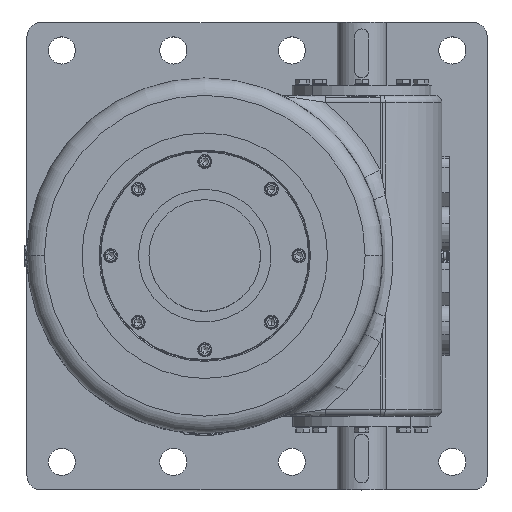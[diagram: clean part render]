
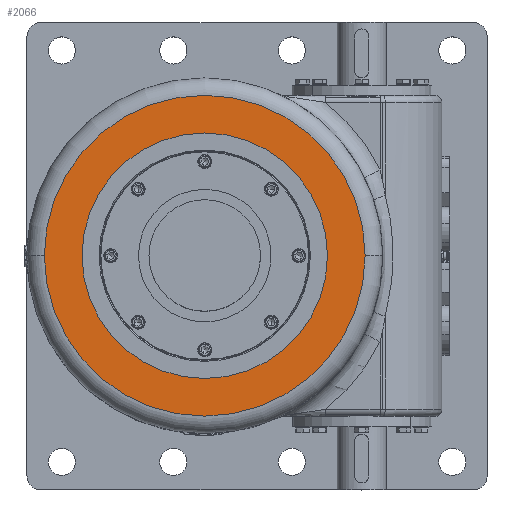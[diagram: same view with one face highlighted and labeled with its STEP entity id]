
A CAD part, top view. The second image highlights one B-rep face of the part: STEP entity #2066.
In plain terms, the highlighted planar face has unit normal (0, 0, 1).
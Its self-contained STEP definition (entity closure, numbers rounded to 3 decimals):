
#2066=ADVANCED_FACE('',(#7311,#7312),#7313,.T.);
#7311=FACE_OUTER_BOUND('',#23066,.T.);
#7312=FACE_BOUND('',#23067,.T.);
#7313=PLANE('',#23068);
#23066=EDGE_LOOP('',(#40808,#40809));
#23067=EDGE_LOOP('',(#40810,#40811));
#23068=AXIS2_PLACEMENT_3D('',#40812,#40813,#40814);
#40808=ORIENTED_EDGE('',*,*,#54395,.F.);
#40809=ORIENTED_EDGE('',*,*,#57571,.F.);
#40810=ORIENTED_EDGE('',*,*,#57534,.T.);
#40811=ORIENTED_EDGE('',*,*,#54431,.T.);
#40812=CARTESIAN_POINT('',(0.,0.,424.0));
#40813=DIRECTION('',(0.0,0.0,1.0));
#40814=DIRECTION('',(-1.0,0.,0.0));
#54395=EDGE_CURVE('',#65049,#65045,#65051,.T.);
#54431=EDGE_CURVE('',#65115,#65119,#65121,.T.);
#57534=EDGE_CURVE('',#65119,#65115,#70258,.T.);
#57571=EDGE_CURVE('',#65045,#65049,#70307,.T.);
#65045=VERTEX_POINT('',#80965);
#65049=VERTEX_POINT('',#80969);
#65051=CIRCLE('',#80971,230.0);
#65115=VERTEX_POINT('',#81057);
#65119=VERTEX_POINT('',#81062);
#65121=CIRCLE('',#81065,176.0);
#70258=CIRCLE('',#95266,176.0);
#70307=CIRCLE('',#95380,230.0);
#80965=CARTESIAN_POINT('',(-230.0,0.,424.0));
#80969=CARTESIAN_POINT('',(230.0,0.,424.0));
#80971=AXIS2_PLACEMENT_3D('',#106599,#106600,#106601);
#81057=CARTESIAN_POINT('',(176.0,0.,424.0));
#81062=CARTESIAN_POINT('',(-176.0,0.,424.0));
#81065=AXIS2_PLACEMENT_3D('',#106665,#106666,#106667);
#95266=AXIS2_PLACEMENT_3D('',#112199,#112200,#112201);
#95380=AXIS2_PLACEMENT_3D('',#112276,#112277,#112278);
#106599=CARTESIAN_POINT('',(0.0,0.0,424.0));
#106600=DIRECTION('',(0.0,0.0,-1.0));
#106601=DIRECTION('',(1.0,0.,0.0));
#106665=CARTESIAN_POINT('',(0.0,0.0,424.0));
#106666=DIRECTION('',(0.0,0.0,-1.0));
#106667=DIRECTION('',(1.0,0.,0.0));
#112199=CARTESIAN_POINT('',(0.0,0.0,424.0));
#112200=DIRECTION('',(0.0,0.0,-1.0));
#112201=DIRECTION('',(1.0,0.,0.0));
#112276=CARTESIAN_POINT('',(0.0,0.0,424.0));
#112277=DIRECTION('',(0.0,0.0,-1.0));
#112278=DIRECTION('',(1.0,0.,0.0));
